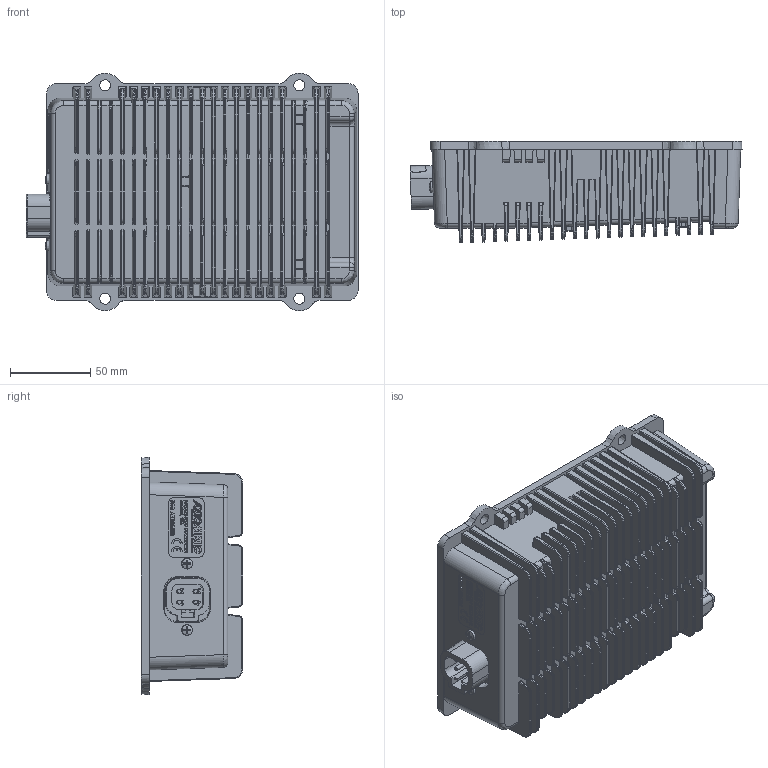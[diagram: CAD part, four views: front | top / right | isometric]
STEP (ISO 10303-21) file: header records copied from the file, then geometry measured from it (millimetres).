
FILE_DESCRIPTION(/* description */ (''),/* implementation_level */ '2;1');
FILE_NAME(/* name */ 'S:\Projects\PS-24-24-13A-I, AX081500, Proj_12019\UNIT ASSEMBLY\RELEASED\A\AX081500.stp',/* time_stamp */ '2019-07-22T14:00:20-04:00',/* author */ ('tfisher'),/* organization */ (''),/* preprocessor_version */ 'ST-DEVELOPER v15.2',/* originating_system */ 'Autodesk Inventor 2014',/* authorisation */ '');
FILE_SCHEMA (('AUTOMOTIVE_DESIGN { 1 0 10303 214 3 1 1 }'));
Products named in the file (1): AX081500 for STEP_Shrinkwrap_1
Bounding box: 206.82 x 63.25 x 147.93 mm (x, y, z)
Volume: 449798.7 mm3; surface area: 232054 mm2
Topology: 1 solids, 16 shells, 4205 faces, 10701 edges, 6708 vertices
Faces by surface type: plane 1663, bspline 1201, cylinder 1183, cone 104, torus 46, sphere 8
Full cylindrical faces by diameter (mm): 2.388 x16, 2.794 x4, 3.099 x2, 3.251 x3, 3.505 x2, 4.14 x6, 5 x6, 6.502 x2, 6.731 x2, 8.306 x2, 8.9 x6
Entity records: 159310 total; most frequent: CARTESIAN_POINT 61200, ORIENTED_EDGE 21030, DIRECTION 18256, EDGE_CURVE 10515, VERTEX_POINT 6642, AXIS2_PLACEMENT_3D 6246, LINE 5764, VECTOR 5764
